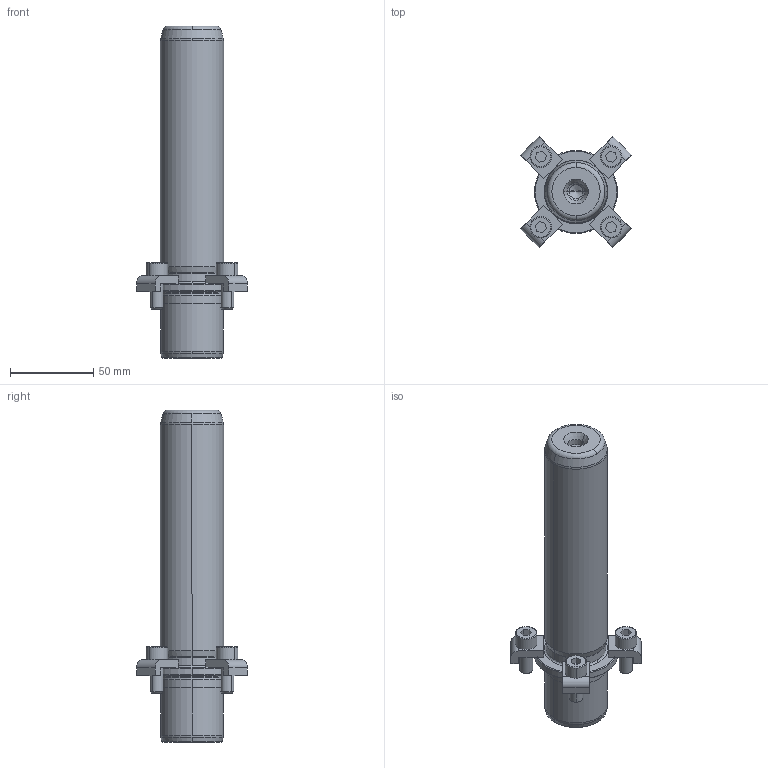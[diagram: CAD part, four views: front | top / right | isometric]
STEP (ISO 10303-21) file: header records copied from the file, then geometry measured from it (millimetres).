
FILE_DESCRIPTION((''),'2;1');
FILE_NAME('P21_038_160.stp','2008-12-23T10:54:43',(''),(''),'Mechanical Desktop 2009','Mechanical Desktop 2009',', , ');
FILE_SCHEMA(('CONFIG_CONTROL_DESIGN'));
Length unit declared in the file: millimetre
Products named in the file (2): Product; blmdl1
Assembly tree (1 placements, depth 2):
  Product
    blmdl1
Bounding box: 66.82 x 66.82 x 200 mm (x, y, z)
Volume: 237753.5 mm3; surface area: 38212.7 mm2
Topology: 9 solids, 9 shells, 195 faces, 477 edges, 309 vertices
Faces by surface type: plane 77, cylinder 52, cone 34, torus 16, bspline 16
Entity records: 6547 total; most frequent: CARTESIAN_POINT 1683, DIRECTION 1078, ORIENTED_EDGE 946, EDGE_CURVE 473, AXIS2_PLACEMENT_3D 424, VERTEX_POINT 309, CIRCLE 243, VECTOR 230
